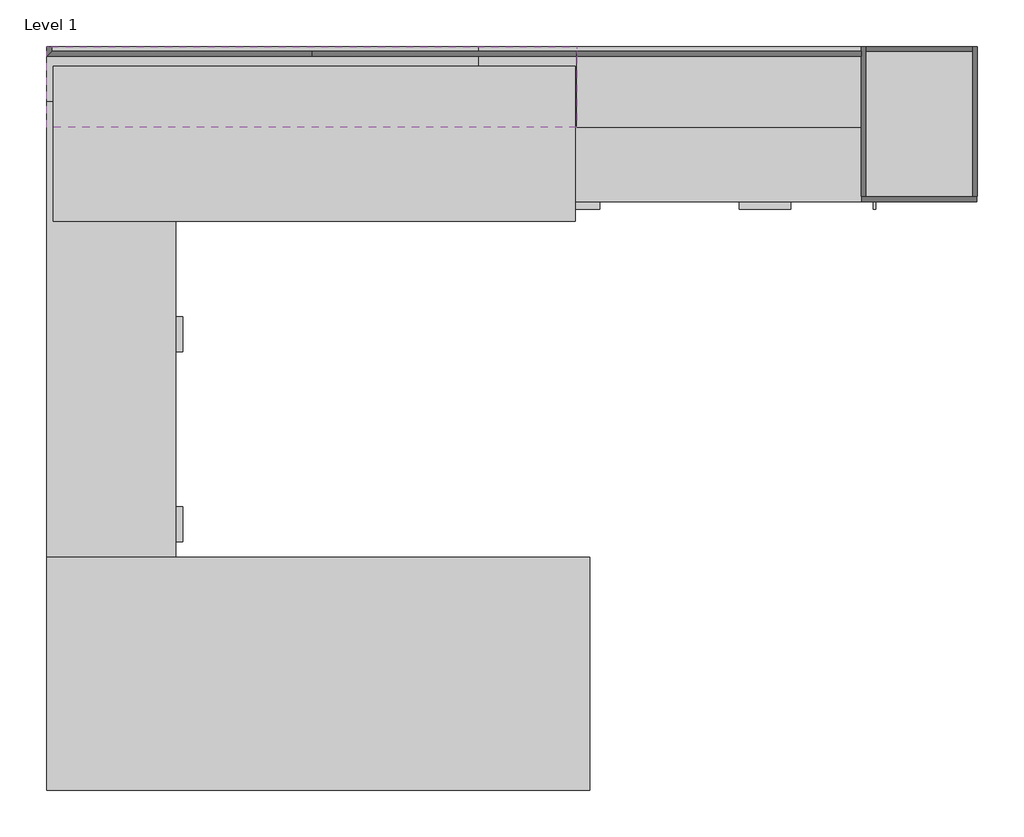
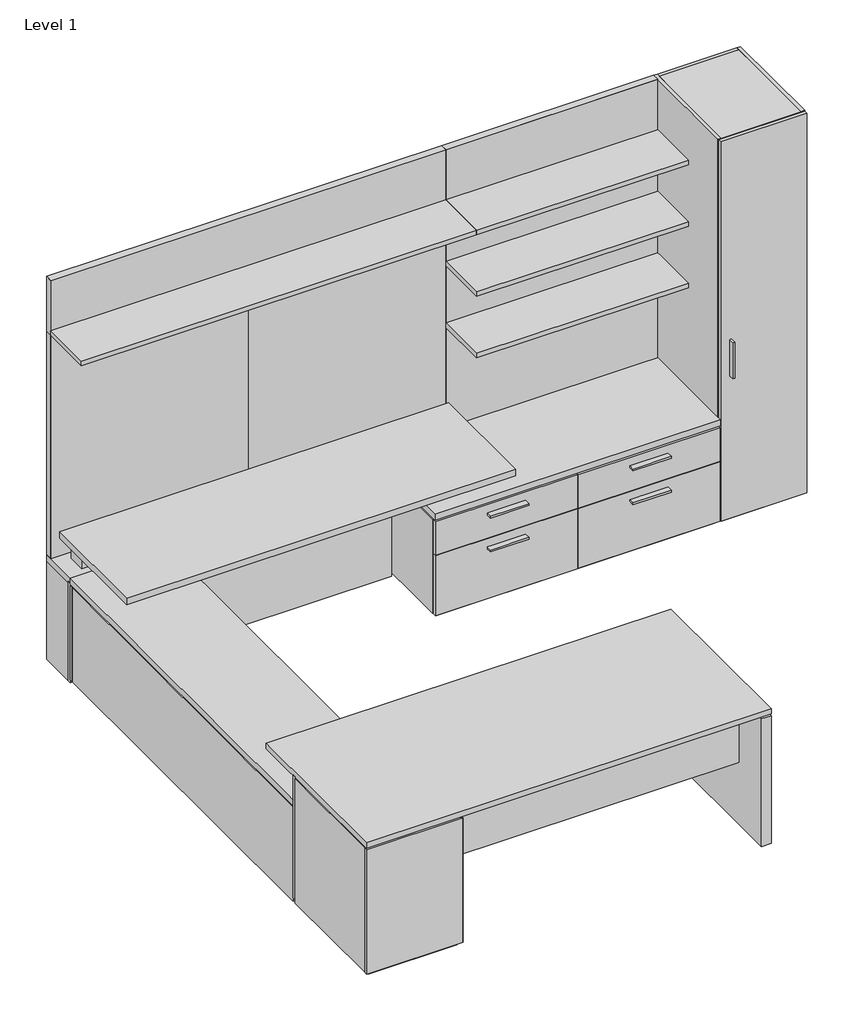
# One storey, incomplete: 13 proxies.
"""IFC4 building model written with IfcOpenShell, lengths in millimetres."""

from ifc_helpers import new_model, si_unit, origin, place, context, project, spatial, transform, mapped, element, save
from components import generic_models_958da90c, generic_models_5fa7eb5c, generic_models_38735c29, generic_models_950f9a99, generic_models_8a2f238f, generic_models_cb12474e, generic_models_bd4945b3, generic_models_195da313, generic_models_48a14a64, generic_models_ac2c5b47, generic_models_7b190466, generic_models_678b21cb, generic_models_d356c26e

model = new_model("IFC4")

# Units and contexts
model_context = context("Model", 3, world=origin())
ifc_project = project(units=[si_unit("LENGTHUNIT", "METRE", prefix="MILLI")], contexts=[model_context])

# Site, building, storey
site = spatial("IfcSite", under=ifc_project)
building = spatial("IfcBuilding", under=site)
storey = spatial("IfcBuildingStorey", under=building, Name="Level 1", Elevation=0.0)

# Proxies
placement = place(None, origin())
generic_models_shape = generic_models_958da90c(model_context)
element("IfcBuildingElementProxy", 1, Name="BASYS^U OFFICE 6_ 44 WALL HUNG SHELVES-PARTS SOLID", ObjectType="BASYS^U OFFICE 6_ 44 WALL HUNG SHELVES-PARTS SOLID", at=placement, inside=storey, context=model_context, shape_type="MappedRepresentation", body=[
    mapped(generic_models_shape, transform((-1117.6, -19.05, 584.2), x_axis=(1.0, 0.0, 0.0), y_axis=(0.0, 0.0, 1.0), z_axis=(0.0, -1.0, 0.0))),
])
generic_models_2_shape = generic_models_5fa7eb5c(model_context)
element("IfcBuildingElementProxy", 2, Name="BASYS^U OFFICE 6_24x80.75 HAT WORKSURFACE-PARTS SOLID", ObjectType="BASYS^U OFFICE 6_24x80.75 HAT WORKSURFACE-PARTS SOLID", at=placement, inside=storey, context=model_context, shape_type="MappedRepresentation", body=[
    mapped(generic_models_2_shape, transform((-3175.0, -685.8, 711.2), x_axis=(1.0, 0.0, 0.0), y_axis=(0.0, 0.0, 1.0), z_axis=(0.0, -1.0, 0.0))),
])
generic_models_3_shape = generic_models_38735c29(model_context)
element("IfcBuildingElementProxy", 3, Name="BASYS^CREDENZA 6B 23-59.25 FF STORAGE", ObjectType="BASYS^CREDENZA 6B 23-59.25 FF STORAGE", at=placement, inside=storey, context=model_context, shape_type="MappedRepresentation", body=[
    mapped(generic_models_3_shape, transform((-1504.95, 0.0, 0.0), x_axis=(1.0, 0.0, 0.0), y_axis=(0.0, 0.0, 1.0), z_axis=(0.0, -1.0, 0.0))),
])
generic_models_4_shape = generic_models_950f9a99(model_context)
element("IfcBuildingElementProxy", 4, Name="BASYS^U OFFICE 6_ MOD CREDENZA FILLER BOX-SOLID ASSEMBLY", ObjectType="BASYS^U OFFICE 6_ MOD CREDENZA FILLER BOX-SOLID ASSEMBLY", at=placement, inside=storey, context=model_context, shape_type="MappedRepresentation", body=[
    mapped(generic_models_4_shape, transform((-2711.45, -2901.95, 0.0), x_axis=(0.0, 1.0, 0.0), y_axis=(0.0, 0.0, 1.0), z_axis=(1.0, 0.0, 0.0))),
])
generic_models_5_shape = generic_models_8a2f238f(model_context)
element("IfcBuildingElementProxy", 5, Name="SCHWINN 22334 PULL", ObjectType="SCHWINN 22334 PULL", at=placement, inside=storey, context=model_context, shape_type="MappedRepresentation", body=[
    mapped(generic_models_5_shape, transform((-2692.4, -2440.78125, 655.6375), x_axis=(1.0, 0.0, 0.0), y_axis=(0.0, 0.0, 1.0), z_axis=(0.0, -1.0, 0.0))),
])
generic_models_6_shape = generic_models_cb12474e(model_context)
element("IfcBuildingElementProxy", 6, Name="BASYS^U OFFICE 6_41 WALL HUNG RT TACK-PARTS SOLID", ObjectType="BASYS^U OFFICE 6_41 WALL HUNG RT TACK-PARTS SOLID", at=placement, inside=storey, context=model_context, shape_type="MappedRepresentation", body=[
    mapped(generic_models_6_shape, transform((-2159.0, -19.05, 584.99375), x_axis=(1.0, 0.0, 0.0), y_axis=(0.0, 0.0, 1.0), z_axis=(0.0, -1.0, 0.0))),
])
generic_models_7_shape = generic_models_bd4945b3(model_context)
element("IfcBuildingElementProxy", 7, Name="BASYS^WARDROBE-18x24x84-RIGHT END", ObjectType="BASYS^WARDROBE-18x24x84-RIGHT END", at=placement, inside=storey, context=model_context, shape_type="MappedRepresentation", body=[
    mapped(generic_models_7_shape, transform((0.0, 0.0, 0.0), x_axis=(1.0, 0.0, 0.0), y_axis=(0.0, 0.0, 1.0), z_axis=(0.0, -1.0, 0.0))),
])
generic_models_8_shape = generic_models_195da313(model_context)
element("IfcBuildingElementProxy", 8, Name="BASYS^U OFFICE 6_ MOD CREDENZA-SOLID ASSEMBLY", ObjectType="BASYS^U OFFICE 6_ MOD CREDENZA-SOLID ASSEMBLY", at=placement, inside=storey, context=model_context, shape_type="MappedRepresentation", body=[
    mapped(generic_models_8_shape, transform((-3200.4, -215.9, 0.0), x_axis=(1.0, 0.0, 0.0), y_axis=(0.0, 0.0, 1.0), z_axis=(0.0, -1.0, 0.0))),
])
generic_models_9_shape = generic_models_48a14a64(model_context)
element("IfcBuildingElementProxy", 9, Name="BASYS^U OFFICE 6_82 WALL HUNG TOP SHELF-PARTS SOLID", ObjectType="BASYS^U OFFICE 6_82 WALL HUNG TOP SHELF-PARTS SOLID", at=placement, inside=storey, context=model_context, shape_type="MappedRepresentation", body=[
    mapped(generic_models_9_shape, transform((-3200.4, -19.05, 1828.8), x_axis=(1.0, 0.0, 0.0), y_axis=(0.0, 0.0, 1.0), z_axis=(0.0, -1.0, 0.0))),
])
generic_models_10_shape = generic_models_ac2c5b47(model_context)
element("IfcBuildingElementProxy", 10, Name="BASYS^OFFICE 6_MOD LOOP BASE DESK-84in U OFFICE", ObjectType="BASYS^OFFICE 6_MOD LOOP BASE DESK-84in U OFFICE", at=placement, inside=storey, context=model_context, shape_type="MappedRepresentation", body=[
    mapped(generic_models_10_shape, transform((-2134.2020604, -2595.8370485, 726.7629133), x_axis=(1.0, 0.0, 0.0), y_axis=(0.0, 0.0, 1.0), z_axis=(0.0, -1.0, 0.0))),
])
generic_models_11_shape = generic_models_7b190466(model_context)
element("IfcBuildingElementProxy", 11, Name="BASYS^U OFFICE_66.75 WIRE WALL-PARTS SOLID", ObjectType="BASYS^U OFFICE_66.75 WIRE WALL-PARTS SOLID", at=placement, inside=storey, context=model_context, shape_type="MappedRepresentation", body=[
    mapped(generic_models_11_shape, transform((-3200.4, 0.0, 546.1), x_axis=(1.0, 0.0, 0.0), y_axis=(0.0, 0.0, 1.0), z_axis=(0.0, -1.0, 0.0))),
])
generic_models_12_shape = generic_models_678b21cb(model_context)
element("IfcBuildingElementProxy", 12, Name="BASYS^U OFFICE_66.75 WIRE WALL SHROUD-PARTS SOLID", ObjectType="BASYS^U OFFICE_66.75 WIRE WALL SHROUD-PARTS SOLID", at=placement, inside=storey, context=model_context, shape_type="MappedRepresentation", body=[
    mapped(generic_models_12_shape, transform((-3117.85, -177.8, 101.6), x_axis=(1.0, 0.0, 0.0), y_axis=(0.0, 0.0, 1.0), z_axis=(0.0, -1.0, 0.0))),
])
generic_models_13_shape = generic_models_d356c26e(model_context)
element("IfcBuildingElementProxy", 13, Name="BASYS^U OFFICE 6_41 WALL HUNG LT TACK-PARTS SOLID", ObjectType="BASYS^U OFFICE 6_41 WALL HUNG LT TACK-PARTS SOLID", at=placement, inside=storey, context=model_context, shape_type="MappedRepresentation", body=[
    mapped(generic_models_13_shape, transform((-3199.60625, -19.05, 584.99375), x_axis=(1.0, 0.0, 0.0), y_axis=(0.0, 0.0, 1.0), z_axis=(0.0, -1.0, 0.0))),
])

save(model, "model.ifc")
